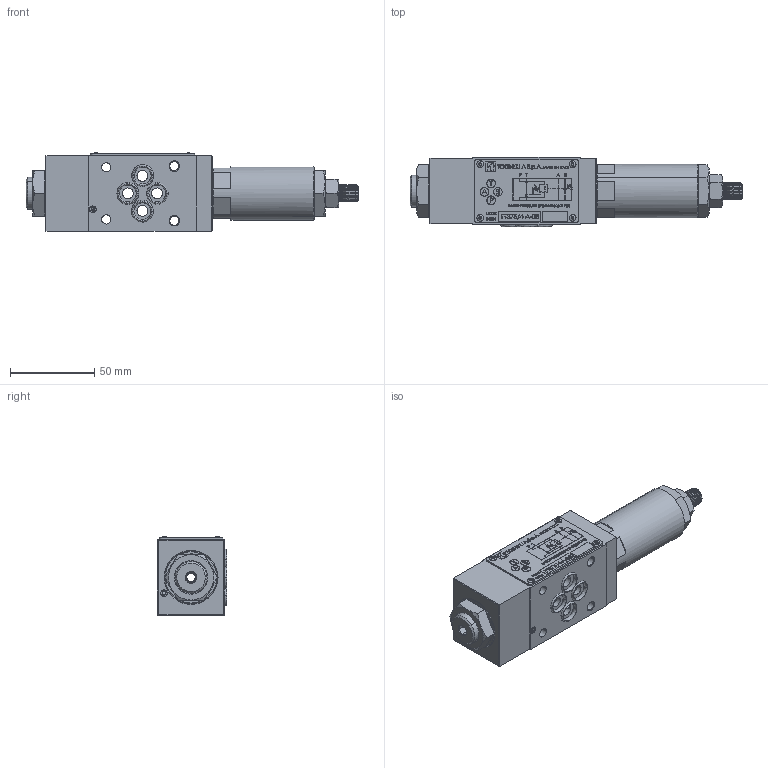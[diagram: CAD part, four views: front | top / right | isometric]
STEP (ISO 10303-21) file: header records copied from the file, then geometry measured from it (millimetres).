
FILE_DESCRIPTION (( 'STEP AP214' ), '1' );
FILE_NAME ('ASSIEME 375-4-A-03.STEP', '2019-12-03T13:53:11', ( '' ), ( '' ), 'SwSTEP 2.0', 'SolidWorks 2018', '' );
FILE_SCHEMA (( 'AUTOMOTIVE_DESIGN' ));
Length unit declared in the file: millimetre
Products named in the file (1): ASSIEME 375-4-A-03
Bounding box: 197.59 x 41.31 x 46.66 mm (x, y, z)
Surface area: 38517.3 mm2 (no closed solid volume)
Topology: 0 solids, 60 shells, 735 faces, 3597 edges, 2829 vertices
Faces by surface type: plane 403, cone 121, cylinder 108, bspline 89, sphere 8, torus 6
Entity records: 55641 total; most frequent: CARTESIAN_POINT 21184, ORIENTED_EDGE 4834, DIRECTION 4632, EDGE_CURVE 3597, VERTEX_POINT 2829, VECTOR 2362, LINE 2362, AXIS2_PLACEMENT_3D 1135
